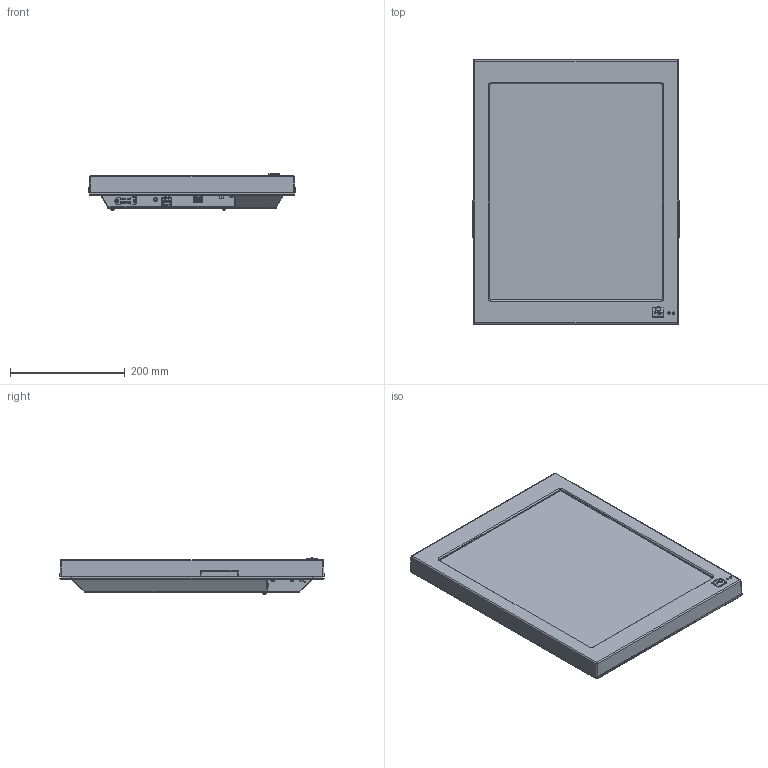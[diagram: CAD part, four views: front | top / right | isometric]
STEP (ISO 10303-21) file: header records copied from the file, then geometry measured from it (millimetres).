
FILE_DESCRIPTION (( 'STEP AP214' ), '1' );
FILE_NAME ('TAE1941 12-200-1941.STEP', '2017-04-10T11:44:26', ( 'SIGMATEK GmbH & Co KG' ), ( 'SIGMATEK GmbH & Co KG' ), 'SwSTEP 2.0', 'SolidWorks 2017', '' );
FILE_SCHEMA (( 'AUTOMOTIVE_DESIGN' ));
Length unit declared in the file: millimetre
Products named in the file (30): Rundschnur 2mm l = 831mm ; Abdeckung Chipkartendurchbruch 9_4_2; 96900-KPL-03 (USB-Frontplatine) (Bestückt); Schraube UNC 4-40 L 7,9; USB mit Kabel; USB Buchse Typ A 180 gerade 1_00; 128301a_v10; 1010141014 LED rot 3mm LTL1CHE-012A; 4110251205 4pol.Minicombicon-Grundgehäuse RM3,5 1937512; 1010141013 LED gr黱 3mm LTL1CHG-012A; 4080225531 3,5mm Klinkenbuchse 90Grad SJ-43516-SMT; 96900-KPL-03 (USB-Frontplatine); 4080225540_RJ45_5558342-1; 3030261777_Präzisions Ring; ETV1961 Gehäuse kpl; 3030301010 - 1 Flachkopfschraube ISO 7045 (DIN 7985) M3 x 6 - Z7 - 4.8 Torx; ss19z geschlossenes Gehäuse; PT-Senkschraube UN13576 KA40 x 10 Torx St-verzinkt; Zexxxx-3993-x1 Folie Steckerbelegung; Sechskantmutter EN ISO 10511 (DIN 985) - M3 - 04 St-verzinkt; ZExxxx-4204-x4 Montageplatte TAE1941; 19z Frontrahmen 1_0; fh_m3_12; USB-Abdeckung 3030201647-2 (RAL7024 grafitgrau)_mit Stiftdichtung; TAE1941 12-200-1941; ZExxxx-4203-x2 Steckerblech TAE1941; s_m3_0; 7227775028 19 Zoll Touch AST-190A140A mit AirVent_ohne Touchabgang; Rundschnur 2mm l = 640mm 
Assembly tree (45 placements, depth 3):
  TAE1941 12-200-1941
    19z Frontrahmen 1_0
    Sechskantmutter EN ISO 10511 (DIN 985) - M3 - 04 St-verzinkt  x2
    PT-Senkschraube UN13576 KA40 x 10 Torx St-verzinkt  x10
    3030301010 - 1 Flachkopfschraube ISO 7045 (DIN 7985) M3 x 6 - Z7 - 4.8 Torx  x2
    3030261777_Präzisions Ring  x2
    96900-KPL-03 (USB-Frontplatine) (Bestückt)
      96900-KPL-03 (USB-Frontplatine)
      1010141013 LED gr黱 3mm LTL1CHG-012A
      1010141014 LED rot 3mm LTL1CHE-012A
      USB Buchse Typ A 180 gerade 1_00
    Abdeckung Chipkartendurchbruch 9_4_2  x2
    Rundschnur 2mm l = 831mm 
    Rundschnur 2mm l = 640mm 
    7227775028 19 Zoll Touch AST-190A140A mit AirVent_ohne Touchabgang
    ZExxxx-4203-x2 Steckerblech TAE1941
      ZExxxx-4203-x2 Steckerblech TAE1941
      s_m3_0  x2
    USB-Abdeckung 3030201647-2 (RAL7024 grafitgrau)_mit Stiftdichtung
    ZExxxx-4204-x4 Montageplatte TAE1941
      fh_m3_12  x2
    Zexxxx-3993-x1 Folie Steckerbelegung
    ETV1961 Gehäuse kpl
      ss19z geschlossenes Gehäuse
    128301a_v10
      4080225540_RJ45_5558342-1
      4080225531 3,5mm Klinkenbuchse 90Grad SJ-43516-SMT
      4110251205 4pol.Minicombicon-Grundgehäuse RM3,5 1937512
    USB mit Kabel
    Schraube UNC 4-40 L 7,9  x2
Bounding box: 359.89 x 461.61 x 62.92 mm (x, y, z)
Volume: 901041.8 mm3; surface area: 926451.5 mm2
Topology: 40 solids, 41 shells, 3928 faces, 9791 edges, 6146 vertices
Faces by surface type: plane 2222, cylinder 781, cone 508, bspline 300, torus 83, sphere 34
Full cylindrical faces by diameter (mm): 0.2 x1
Entity records: 108739 total; most frequent: CARTESIAN_POINT 23721, ORIENTED_EDGE 16244, DIRECTION 15650, EDGE_CURVE 8122, VECTOR 5440, LINE 5440, VERTEX_POINT 5139, AXIS2_PLACEMENT_3D 5105
